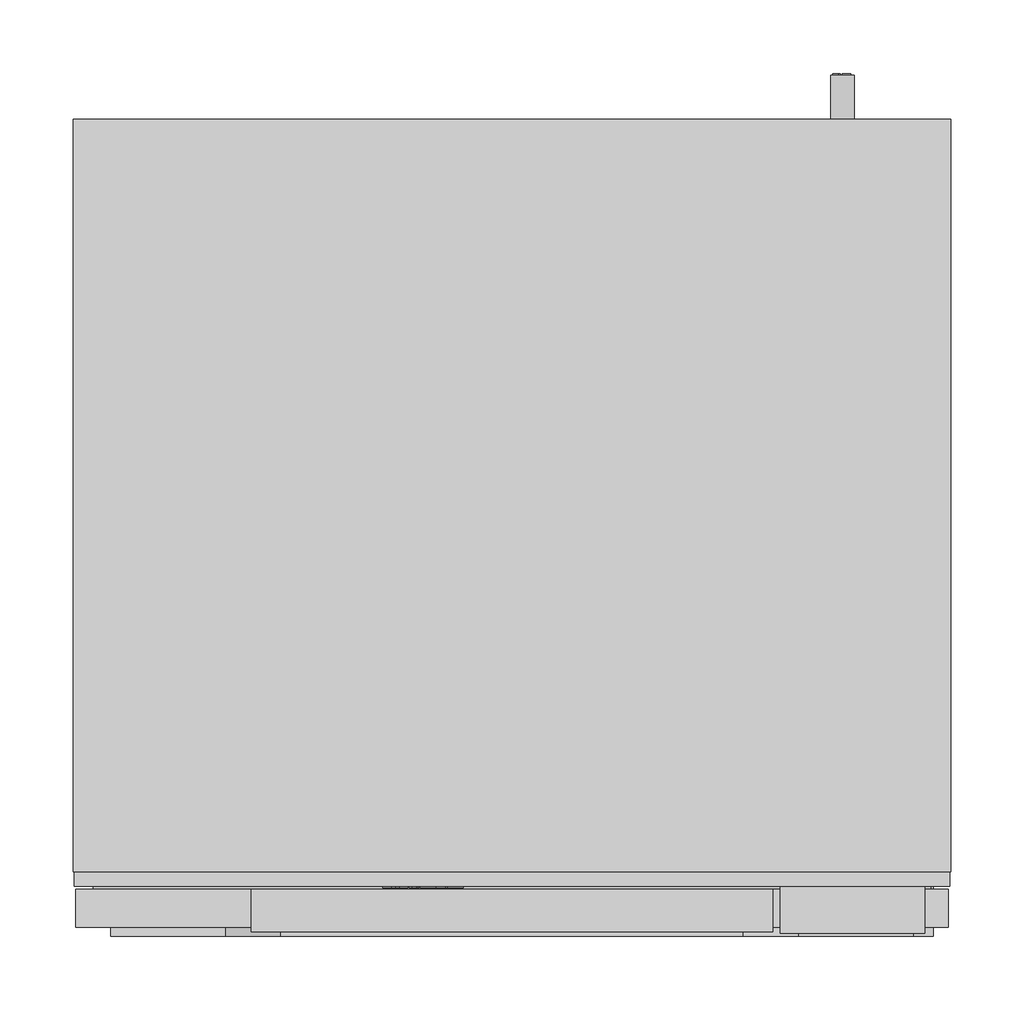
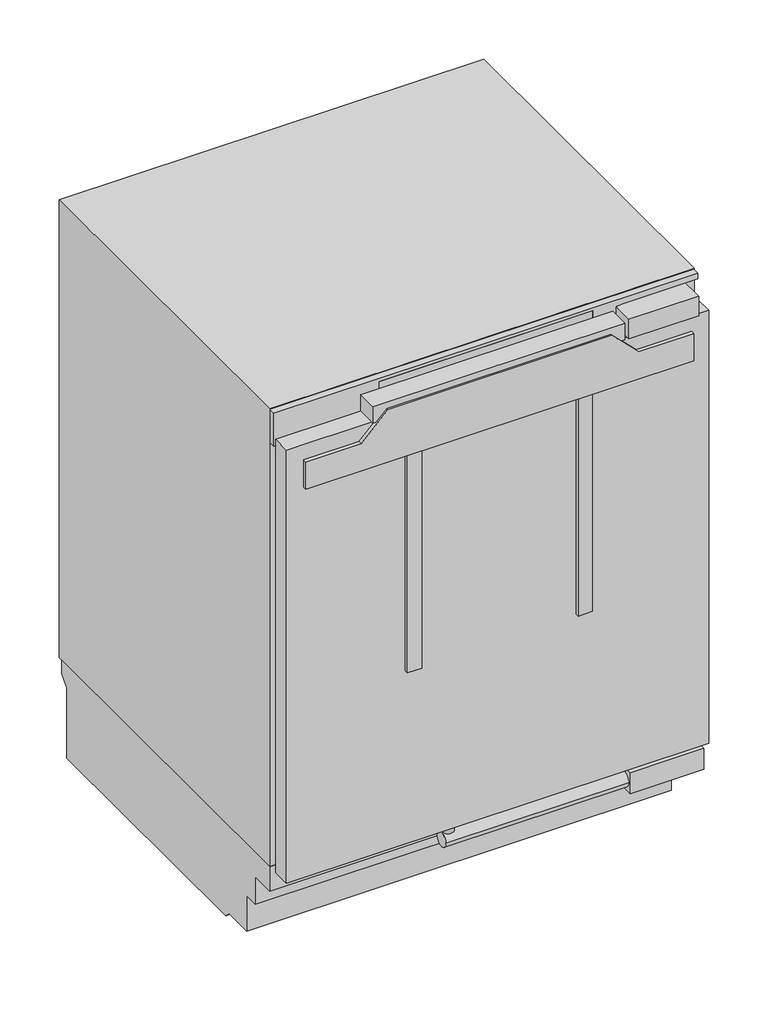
# Not in any storey: 1 proxy.
"""IFC4 building model written with IfcOpenShell, lengths in millimetres."""

import ifcopenshell
import ifcopenshell.guid

model = None  # the IFC model being written
_history = None  # IfcOwnerHistory: only IFC2X3 demands one
_inside = {}  # id of a spatial element -> (the spatial element, [elements in it])
_under = {}  # id of a project, library or spatial element -> (it, [spatial elements below it])
_declared = {}  # id of a project -> (the project, [libraries it declares])
_typed = {}  # id of a type object -> (the type object, [elements of that type])
_made_of = {}  # id of a material, layer set ... -> (it, [elements and type objects made of it])


def new_model(schema):
    """Start an empty IFC model of exactly this schema.

    Asked for "IFC4X3", IfcOpenShell would pick the latest addendum, in which some entities
    have other attributes; the version numbers below select the first issue.
    IFC2X3 requires an IfcOwnerHistory on every rooted entity: one is made here for all.
    """
    global model, _history
    if schema == "IFC4X3":
        model = ifcopenshell.file(schema_version=(4, 3, 0, 0))
    else:
        model = ifcopenshell.file(schema=schema)
    _inside.clear()
    _under.clear()
    _declared.clear()
    _typed.clear()
    _made_of.clear()
    _history = None
    if model.schema == "IFC2X3":
        org = make("IfcOrganization", Name="unknown")
        user = make(
            "IfcPersonAndOrganization",
            ThePerson=make("IfcPerson", FamilyName="unknown"),
            TheOrganization=org,
        )
        app = make(
            "IfcApplication",
            ApplicationDeveloper=org,
            Version="unknown",
            ApplicationFullName="unknown",
            ApplicationIdentifier="unknown",
        )
        _history = make(
            "IfcOwnerHistory",
            OwningUser=user,
            OwningApplication=app,
            ChangeAction="ADDED",
            CreationDate=0,
        )
    return model


def make(cls, **values):
    """One entity of the class cls with the attributes given. An attribute that is None is left unset."""
    return model.create_entity(
        cls, **{name: value for name, value in values.items() if value is not None}
    )


def rooted(cls, **values):
    """An entity with a GlobalId (a new one), such as an element, a storey or a relation."""
    return make(cls, GlobalId=ifcopenshell.guid.new(), OwnerHistory=_history, **values)


def si_unit(unit_type, name, prefix=None):
    """IfcSIUnit, for example si_unit("LENGTHUNIT", "METRE", prefix="MILLI")."""
    return make("IfcSIUnit", UnitType=unit_type, Prefix=prefix, Name=name)


def assignment(units):
    """IfcUnitAssignment: the units of a project."""
    return None if units is None else make("IfcUnitAssignment", Units=units)


def point(xyz):
    """IfcCartesianPoint."""
    return None if xyz is None else make("IfcCartesianPoint", Coordinates=xyz)


def direction(xyz):
    """IfcDirection."""
    return None if xyz is None else make("IfcDirection", DirectionRatios=xyz)


def frame(location, z_axis=None, x_axis=None):
    """IfcAxis2Placement3D, a coordinate frame: its origin and axes. An axis left out is left unset."""
    return make(
        "IfcAxis2Placement3D",
        Location=point(location),
        Axis=direction(z_axis),
        RefDirection=direction(x_axis),
    )


def frame_2d(location, x_axis=None):
    """IfcAxis2Placement2D, a coordinate frame in the plane: its origin and x axis."""
    return make(
        "IfcAxis2Placement2D", Location=point(location), RefDirection=direction(x_axis)
    )


def origin():
    """The frame at (0, 0, 0) with its axes left unset."""
    return frame((0.0, 0.0, 0.0))


def origin_with_axes():
    """The frame at (0, 0, 0) with the z axis (0, 0, 1) and the x axis (1, 0, 0) written out."""
    return frame((0.0, 0.0, 0.0), z_axis=(0.0, 0.0, 1.0), x_axis=(1.0, 0.0, 0.0))


def place(relative_to, where):
    """IfcLocalPlacement: puts the frame where relative to a parent placement (None: the world)."""
    return make(
        "IfcLocalPlacement", PlacementRelTo=relative_to, RelativePlacement=where
    )


def context(
    kind, dimensions, precision=None, world=None, true_north=None, identifier=None
):
    """IfcGeometricRepresentationContext, for example the 3D "Model" context."""
    return make(
        "IfcGeometricRepresentationContext",
        ContextIdentifier=identifier,
        ContextType=kind,
        CoordinateSpaceDimension=dimensions,
        Precision=precision,
        WorldCoordinateSystem=world,
        TrueNorth=true_north,
    )


def project(units=None, contexts=None):
    """IfcProject with its units and contexts."""
    return rooted(
        "IfcProject",
        Name="project",
        RepresentationContexts=contexts,
        UnitsInContext=assignment(units),
    )


def spatial(cls, under=None, at=None, **own):
    """A site, building, storey or space (cls), placed at a placement, below another one or the project."""
    s = rooted(cls, ObjectPlacement=at, **own)
    if under is not None:
        _under.setdefault(under.id(), (under, []))[1].append(s)
    return s


def polyline(points):
    """IfcPolyline through the points."""
    return make("IfcPolyline", Points=[point(p) for p in points])


def circle_curve(where, radius):
    """IfcCircle in the frame where."""
    return make("IfcCircle", Position=where, Radius=radius)


def ellipse_curve(where, semi_axis1, semi_axis2):
    """IfcEllipse in the frame where."""
    return make(
        "IfcEllipse", Position=where, SemiAxis1=semi_axis1, SemiAxis2=semi_axis2
    )


def trimmed(basis, trim1, trim2, sense, master):
    """IfcTrimmedCurve: the piece of a basis curve between two trims."""
    return make(
        "IfcTrimmedCurve",
        BasisCurve=basis,
        Trim1=trim1,
        Trim2=trim2,
        SenseAgreement=sense,
        MasterRepresentation=master,
    )


def segment(curve, same_sense, transition):
    """IfcCompositeCurveSegment."""
    return make(
        "IfcCompositeCurveSegment",
        Transition=transition,
        SameSense=same_sense,
        ParentCurve=curve,
    )


def composite_curve(segments, self_intersect=None):
    """IfcCompositeCurve: segments joined end to end."""
    return make("IfcCompositeCurve", Segments=segments, SelfIntersect=self_intersect)


def outline(outer, holes=None, kind="AREA"):
    """IfcArbitraryClosedProfileDef: a profile drawn as a closed curve; with holes, ...WithVoids."""
    if holes is None:
        return make("IfcArbitraryClosedProfileDef", ProfileType=kind, OuterCurve=outer)
    return make(
        "IfcArbitraryProfileDefWithVoids",
        ProfileType=kind,
        OuterCurve=outer,
        InnerCurves=holes,
    )


def extrude(swept, where, along, depth):
    """IfcExtrudedAreaSolid: the profile swept, set in the frame where, extruded along a direction by depth."""
    return make(
        "IfcExtrudedAreaSolid",
        SweptArea=swept,
        Position=where,
        ExtrudedDirection=direction(along),
        Depth=depth,
    )


def faces_of(points, faces, orient=None, outer=None):
    """IfcFace entities. A face is a list of loops; a loop is a list of indices into points, from 0.

    orient and outer hold one flag for each loop. By default every Orientation is true, the
    first loop of a face is its IfcFaceOuterBound and the others are IfcFaceBound.
    """
    made = []
    for i, loops in enumerate(faces):
        bounds = []
        for j, loop in enumerate(loops):
            is_outer = j == 0 if outer is None else outer[i][j]
            bounds.append(
                make(
                    "IfcFaceOuterBound" if is_outer else "IfcFaceBound",
                    Bound=make("IfcPolyLoop", Polygon=[points[k] for k in loop]),
                    Orientation=True if orient is None else orient[i][j],
                )
            )
        made.append(make("IfcFace", Bounds=bounds))
    return made


def faceted_brep(points, faces, orient=None, outer=None, voids=None):
    """IfcFacetedBrep: a solid bounded by flat faces; with voids (closed shells), ...WithVoids."""
    shared = [point(p) for p in points]
    hull = make("IfcClosedShell", CfsFaces=faces_of(shared, faces, orient, outer))
    if voids is None:
        return make("IfcFacetedBrep", Outer=hull)
    return make(
        "IfcFacetedBrepWithVoids",
        Outer=hull,
        Voids=[
            make(cls, CfsFaces=faces_of(shared, fs, o, b)) for cls, fs, o, b in voids
        ],
    )


def shape(context_of_items, identifier, shape_type, items):
    """IfcShapeRepresentation: the items that make up one representation, for example the "Body"."""
    return make(
        "IfcShapeRepresentation",
        ContextOfItems=context_of_items,
        RepresentationIdentifier=identifier,
        RepresentationType=shape_type,
        Items=items,
    )


def source(mapping_origin, context_of_items, identifier, shape_type, items):
    """IfcRepresentationMap: a shape defined once, which mapped items show again and again."""
    return make(
        "IfcRepresentationMap",
        MappingOrigin=mapping_origin,
        MappedRepresentation=shape(context_of_items, identifier, shape_type, items),
    )


def transform(
    local_origin,
    x_axis=None,
    y_axis=None,
    z_axis=None,
    scale=None,
    scale2=None,
    scale3=None,
    uniform=True,
):
    """IfcCartesianTransformationOperator3D, or its non-uniform kind. x_axis, y_axis, z_axis: its Axis1, 2, 3."""
    if uniform:
        return make(
            "IfcCartesianTransformationOperator3D",
            Axis1=direction(x_axis),
            Axis2=direction(y_axis),
            LocalOrigin=point(local_origin),
            Scale=scale,
            Axis3=direction(z_axis),
        )
    return make(
        "IfcCartesianTransformationOperator3DnonUniform",
        Axis1=direction(x_axis),
        Axis2=direction(y_axis),
        LocalOrigin=point(local_origin),
        Scale=scale,
        Axis3=direction(z_axis),
        Scale2=scale2,
        Scale3=scale3,
    )


def mapped(mapping_source, mapping_target):
    """IfcMappedItem: shows the shape of a source again, moved by a transform."""
    return make(
        "IfcMappedItem", MappingSource=mapping_source, MappingTarget=mapping_target
    )


def made_of(thing, what):
    """Note that an element or type object is made of a material, layer set ...; save() writes the relation."""
    if what is not None:
        _made_of.setdefault(what.id(), (what, []))[1].append(thing)
    return thing


def element(
    cls,
    number,
    at=None,
    inside=None,
    cuts=None,
    type_object=None,
    material=None,
    context=None,
    identifier="Body",
    shape_type=None,
    held_by="IfcProductDefinitionShape",
    body=None,
    shapes=None,
    **own,
):
    """One element of the class cls, such as IfcWall. Its Tag is "e" and its number.

    at: its placement. inside: the storey or other place that contains it. cuts: it is an
    opening in that element (IfcRelVoidsElement). A single representation is given by context,
    identifier, shape_type and body (its items); several are given by shapes. held_by: the class
    of the entity that holds the representations. save() writes the other relations.
    """
    e = rooted(cls, Tag="e%d" % number, ObjectPlacement=at, **own)
    if body is not None:
        shapes = [shape(context, identifier, shape_type, body)]
    if shapes is not None:
        e.Representation = make(held_by, Representations=shapes)
    if inside is not None:
        _inside.setdefault(inside.id(), (inside, []))[1].append(e)
    if cuts is not None:
        rooted(
            "IfcRelVoidsElement", RelatingBuildingElement=cuts, RelatedOpeningElement=e
        )
    if type_object is not None:
        _typed.setdefault(type_object.id(), (type_object, []))[1].append(e)
    return made_of(e, material)


def aggregate(whole, parts):
    """IfcRelAggregates: a whole, such as a stair, and the parts it consists of."""
    return rooted("IfcRelAggregates", RelatingObject=whole, RelatedObjects=parts)


def save(model, path):
    """Write the relations noted so far, then the file.

    IfcRelAggregates (storeys below a building ...), IfcRelContainedInSpatialStructure (elements
    in a storey), IfcRelDefinesByType, IfcRelAssociatesMaterial and IfcRelDeclares: one each for
    every whole, place, type object, material and project.
    """
    for whole, parts in _under.values():
        aggregate(whole, parts)
    for where, things in _inside.values():
        rooted(
            "IfcRelContainedInSpatialStructure",
            RelatedElements=things,
            RelatingStructure=where,
        )
    for kind, things in _typed.values():
        rooted("IfcRelDefinesByType", RelatedObjects=things, RelatingType=kind)
    for what, things in _made_of.values():
        rooted("IfcRelAssociatesMaterial", RelatedObjects=things, RelatingMaterial=what)
    for by, libraries in _declared.values():
        rooted("IfcRelDeclares", RelatingContext=by, RelatedDefinitions=libraries)
    model.write(path)


def plane_surface(at):
    """IfcPlane: the flat surface through the origin of the frame at, square to its z axis."""
    return make("IfcPlane", Position=at)


def cylinder_surface(at, radius):
    """IfcCylindricalSurface: all points at the distance radius from the z axis of the frame at."""
    return make("IfcCylindricalSurface", Position=at, Radius=radius)


def revolved_surface(curve, axis_point, axis_direction):
    """IfcSurfaceOfRevolution: the curve turned about the line through axis_point along axis_direction."""
    return make(
        "IfcSurfaceOfRevolution",
        SweptCurve=make("IfcArbitraryOpenProfileDef", ProfileType="CURVE", Curve=curve),
        AxisPosition=make("IfcAxis1Placement", Location=point(axis_point), Axis=direction(axis_direction)),
    )


def extruded_surface(curve, direction_of_extrusion, depth):
    """IfcSurfaceOfLinearExtrusion: the curve pushed along a direction by depth."""
    return make(
        "IfcSurfaceOfLinearExtrusion",
        SweptCurve=make("IfcArbitraryOpenProfileDef", ProfileType="CURVE", Curve=curve),
        ExtrudedDirection=direction(direction_of_extrusion),
        Depth=depth,
    )


def advanced_brep(points, edges, surfaces, faces):
    """IfcAdvancedBrep: a solid bounded by faces that lie on surfaces and meet in shared edges.

    An edge is (start, end): straight between two places in points (the first is 0);
    or (start, end, curve); or (start, end, curve, False) where it runs against its curve.
    A face is (place in surfaces, loops), or (place, loops, False) where it looks against
    its surface's normal. A loop lists edges by number (the first is 1), with a minus sign
    where the edge is run from its end to its start. The first loop is the outer one.
    """
    corners = [point(p) for p in points]
    vertices = [make("IfcVertexPoint", VertexGeometry=c) for c in corners]
    made = []
    for start, end, *more in edges:
        made.append(
            make(
                "IfcEdgeCurve",
                EdgeStart=vertices[start],
                EdgeEnd=vertices[end],
                EdgeGeometry=more[0] if more else make("IfcPolyline", Points=[corners[start], corners[end]]),
                SameSense=more[1] if len(more) > 1 else True,
            )
        )
    hull = []
    for where, loops, *sense in faces:
        bounds = []
        for j, loop in enumerate(loops):
            ring = [make("IfcOrientedEdge", EdgeElement=made[abs(k) - 1], Orientation=k > 0) for k in loop]
            bounds.append(
                make(
                    "IfcFaceOuterBound" if j == 0 else "IfcFaceBound",
                    Bound=make("IfcEdgeLoop", EdgeList=ring),
                    Orientation=True,
                )
            )
        hull.append(make("IfcAdvancedFace", Bounds=bounds, FaceSurface=surfaces[where], SameSense=sense[0] if sense else True))
    return make("IfcAdvancedBrep", Outer=make("IfcClosedShell", CfsFaces=hull))


def specialty_equipment_8ff5ed72(model_context):
    return source(origin(), model_context, "Body", "SolidModel", [
        extrude(outline(polyline([(795.9349293, -88.017), (795.9349293, -86.928), (789.9139293, -86.928), (789.9139293, -88.017), (788.4019293, -88.017), (788.4019293, -84.057), (789.9139293, -84.057), (789.9139293, -85.137), (793.7360541, -85.137), (788.4019293, -81.114), (793.8421516, -77.073), (789.9139293, -77.073), (789.9139293, -78.18), (788.4019293, -78.18), (788.4019293, -70.998), (789.9139293, -70.998), (789.9139293, -72.141), (795.9349293, -72.141), (795.9349293, -70.998), (797.4019293, -70.998), (797.4019293, -76.479), (794.0269293, -79.107), (797.4019293, -81.744), (797.4019293, -88.017), (795.9349293, -88.017)])), frame((0.0, 33.1, 0.0), z_axis=(0.0, 1.0, 0.0), x_axis=(0.0, 0.0, 1.0)), (0.0, 0.0, 1.0), 1.0),
        extrude(outline(polyline([(795.9349293, -51.495), (795.9349293, -50.415), (789.9139293, -50.415), (789.9139293, -51.495), (788.4019293, -51.495), (788.4019293, -44.196), (789.9139293, -44.196), (789.9139293, -45.303), (797.4019293, -45.303), (797.4019293, -51.495), (795.9349293, -51.495)])), frame((0.0, 33.1, 0.0), z_axis=(0.0, 1.0, 0.0), x_axis=(0.0, 0.0, 1.0)), (0.0, 0.0, 1.0), 1.0),
        extrude(outline(polyline([(796.8709293, -67.857), (795.4129293, -67.173), (796.8349293, -64.122), (798.2929293, -64.797), (796.8709293, -67.857)])), frame((0.0, 33.1, 0.0), z_axis=(0.0, 1.0, 0.0), x_axis=(0.0, 0.0, 1.0)), (0.0, 0.0, 1.0), 1.0),
        extrude(outline(polyline([(795.2149293, -70.08), (793.6039293, -70.08), (793.6039293, -69.009), (789.9139293, -69.009), (789.9139293, -70.08), (788.4019293, -70.08), (788.4019293, -62.979), (789.9139293, -62.979), (789.9139293, -64.023), (795.2149293, -64.023), (795.2149293, -70.08)])), frame((0.0, 33.1, 0.0), z_axis=(0.0, 1.0, 0.0), x_axis=(0.0, 0.0, 1.0)), (0.0, 0.0, 1.0), 1.0),
        advanced_brep(
        [(-58.02, 33.1, 790.5349293), (-58.02, 33.1, 791.4439293), (-51.999, 33.1, 791.4439293), (-62.475, 33.1, 791.4439293), (-60.0, 33.1, 788.4019293), (-52.152, 33.1, 790.5349293), (-54.87, 33.1, 790.5349293), (-57.012, 33.1, 789.5269293), (-58.02, 33.1, 792.5959293), (-58.02, 33.1, 793.5769293), (-56.481, 33.1, 793.5769293), (-56.481, 33.1, 792.5959293), (-58.02, 34.1, 790.5349293), (-57.012, 34.1, 789.5269293), (-54.87, 34.1, 790.5349293), (-52.152, 34.1, 790.5349293), (-60.0, 34.1, 788.4019293), (-62.475, 34.1, 791.4439293), (-51.999, 34.1, 791.4439293), (-58.02, 34.1, 791.4439293), (-58.02, 34.1, 792.5959293), (-56.481, 34.1, 792.5959293), (-56.481, 34.1, 793.5769293), (-58.02, 34.1, 793.5769293)],
        [
            (0, 1),
            (1, 2),
            (2, 3, ellipse_curve(frame((-57.237, 33.1, 791.4439293), z_axis=(0.0, -1.0, 0.0), x_axis=(-1.0, 0.0, 0.0)), 5.238, 4.329)),
            (3, 4, circle_curve(frame((-58.9919509, 33.1, 791.7499293), z_axis=(0.0, -1.0, 0.0), x_axis=(0.0, 0.0, -1.0)), 3.4964649)),
            (4, 5, circle_curve(frame((-57.3418572, 33.1, 794.1259293), z_axis=(0.0, -1.0, 0.0), x_axis=(0.0, 0.0, -1.0)), 6.3110933)),
            (5, 6),
            (6, 7, circle_curve(frame((-56.5720588, 33.1, 791.3719293), z_axis=(0.0, 1.0, 0.0), x_axis=(0.0, 0.0, -1.0)), 1.896727)),
            (7, 0, circle_curve(frame((-57.012, 33.1, 790.5349293), z_axis=(0.0, 1.0, 0.0), x_axis=(0.0, 0.0, -1.0)), 1.008)),
            (8, 9),
            (9, 10, circle_curve(frame((-57.2505, 33.1, 793.5769293), z_axis=(0.0, 1.0, 0.0), x_axis=(0.0, 0.0, -1.0)), 0.7695)),
            (10, 11),
            (11, 8),
            (12, 13, circle_curve(frame((-57.012, 34.1, 790.5349293), z_axis=(0.0, -1.0, 0.0), x_axis=(0.0, 0.0, -1.0)), 1.008)),
            (13, 14, circle_curve(frame((-56.5720588, 34.1, 791.3719293), z_axis=(0.0, -1.0, 0.0), x_axis=(0.0, 0.0, -1.0)), 1.896727)),
            (14, 15),
            (15, 16, circle_curve(frame((-57.3418572, 34.1, 794.1259293), z_axis=(0.0, 1.0, 0.0), x_axis=(0.0, 0.0, -1.0)), 6.3110933)),
            (16, 17, circle_curve(frame((-58.9919509, 34.1, 791.7499293), z_axis=(0.0, 1.0, 0.0), x_axis=(0.0, 0.0, -1.0)), 3.4964649)),
            (17, 18, ellipse_curve(frame((-57.237, 34.1, 791.4439293), z_axis=(0.0, 1.0, 0.0), x_axis=(-1.0, 0.0, 0.0)), 5.238, 4.329)),
            (18, 19),
            (19, 12),
            (20, 21),
            (21, 22),
            (22, 23, circle_curve(frame((-57.2505, 34.1, 793.5769293), z_axis=(0.0, -1.0, 0.0), x_axis=(0.0, 0.0, -1.0)), 0.7695)),
            (23, 20),
            (0, 12),
            (19, 1),
            (18, 2),
            (5, 15),
            (14, 6),
            (17, 3),
            (13, 7),
            (16, 4),
            (8, 20),
            (23, 9),
            (22, 10),
            (21, 11),
        ],
        [
            plane_surface(frame((-58.02, 33.1, 791.4439293), z_axis=(0.0, -1.0, 0.0), x_axis=(0.0, 0.0, 1.0))),
            plane_surface(frame((-58.02, 34.1, 791.4439293), z_axis=(0.0, 1.0, 0.0), x_axis=(0.0, 0.0, -1.0))),
            plane_surface(frame((-58.02, 33.1, 790.5349293), z_axis=(1.0, 0.0, 0.0), x_axis=(0.0, 1.0, 0.0))),
            plane_surface(frame((-58.02, 33.1, 791.4439293), z_axis=(0.0, 0.0, -1.0), x_axis=(0.0, 1.0, 0.0))),
            plane_surface(frame((-52.152, 33.1, 790.5349293), z_axis=(0.0, 0.0, 1.0), x_axis=(0.0, 1.0, 0.0))),
            extruded_surface(trimmed(ellipse_curve(frame((-57.237, 35.1, 791.4439293), z_axis=(0.0, -1.0, 0.0), x_axis=(-1.0, 0.0, 0.0)), 5.238, 4.329), [point((-51.999, 35.1, 791.4439293))], [point((-62.475, 35.1, 791.4439293))], True, "CARTESIAN"), (0.0, -1.0, 0.0), 1.0),
            revolved_surface(polyline([(-56.5720588, 34.1, 789.4752023), (-56.5720588, 33.1, 789.4752023)]), (-56.5720588, 34.1, 791.3719293), (0.0, 1.0, 0.0)),
            revolved_surface(polyline([(-57.012, 34.1, 789.5269293), (-57.012, 33.1, 789.5269293)]), (-57.012, 34.1, 790.5349293), (0.0, 1.0, 0.0)),
            cylinder_surface(frame((-58.9919509, 34.1, 791.7499293), z_axis=(0.0, -1.0, 0.0), x_axis=(0.0, 0.0, -1.0)), 3.4964649),
            cylinder_surface(frame((-57.3418572, 34.1, 794.1259293), z_axis=(0.0, -1.0, 0.0), x_axis=(0.0, 0.0, -1.0)), 6.3110933),
            plane_surface(frame((-58.02, 33.1, 792.5959293), z_axis=(1.0, 0.0, 0.0), x_axis=(0.0, 1.0, 0.0))),
            revolved_surface(polyline([(-57.2505, 34.1, 792.8074293), (-57.2505, 33.1, 792.8074293)]), (-57.2505, 34.1, 793.5769293), (0.0, 1.0, 0.0)),
            plane_surface(frame((-56.481, 33.1, 793.5769293), z_axis=(-1.0, 0.0, 0.0), x_axis=(0.0, 1.0, 0.0))),
            plane_surface(frame((-56.481, 33.1, 792.5959293), z_axis=(0.0, 0.0, 1.0), x_axis=(0.0, 1.0, 0.0))),
        ],
        [
            (0, [[1, 2, 3, 4, 5, 6, 7, 8], [9, 10, 11, 12]]),
            (1, [[13, 14, 15, 16, 17, 18, 19, 20], [21, 22, 23, 24]]),
            (2, [[-1, 25, -20, 26]]),
            (3, [[-2, -26, -19, 27]]),
            (4, [[-6, 28, -15, 29]]),
            (5, [[-3, -27, -18, 30]]),
            (6, [[-7, -29, -14, 31]]),
            (7, [[-8, -31, -13, -25]]),
            (8, [[-4, -30, -17, 32]]),
            (9, [[-5, -32, -16, -28]]),
            (10, [[-9, 33, -24, 34]]),
            (11, [[-10, -34, -23, 35]]),
            (12, [[-11, -35, -22, 36]]),
            (13, [[-12, -36, -21, -33]]),
        ],
    ),
        advanced_brep(
        [(-39.237, 33.1, 790.5349293), (-39.237, 33.1, 791.4439293), (-33.216, 33.1, 791.4439293), (-43.692, 33.1, 791.4439293), (-41.217, 33.1, 788.4019293), (-33.369, 33.1, 790.5349293), (-36.087, 33.1, 790.5349293), (-38.229, 33.1, 789.5269293), (-39.237, 33.1, 792.5959293), (-39.237, 33.1, 793.5769293), (-37.698, 33.1, 793.5769293), (-37.698, 33.1, 792.5959293), (-39.237, 34.1, 790.5349293), (-38.229, 34.1, 789.5269293), (-36.087, 34.1, 790.5349293), (-33.369, 34.1, 790.5349293), (-41.217, 34.1, 788.4019293), (-43.692, 34.1, 791.4439293), (-33.216, 34.1, 791.4439293), (-39.237, 34.1, 791.4439293), (-39.237, 34.1, 792.5959293), (-37.698, 34.1, 792.5959293), (-37.698, 34.1, 793.5769293), (-39.237, 34.1, 793.5769293)],
        [
            (0, 1),
            (1, 2),
            (2, 3, ellipse_curve(frame((-38.454, 33.1, 791.4439293), z_axis=(0.0, -1.0, 0.0), x_axis=(-1.0, 0.0, 0.0)), 5.238, 4.329)),
            (3, 4, circle_curve(frame((-40.2089509, 33.1, 791.7499293), z_axis=(0.0, -1.0, 0.0), x_axis=(0.0, 0.0, -1.0)), 3.4964649)),
            (4, 5, circle_curve(frame((-38.5588572, 33.1, 794.1259293), z_axis=(0.0, -1.0, 0.0), x_axis=(0.0, 0.0, -1.0)), 6.3110933)),
            (5, 6),
            (6, 7, circle_curve(frame((-37.7890588, 33.1, 791.3719293), z_axis=(0.0, 1.0, 0.0), x_axis=(0.0, 0.0, -1.0)), 1.896727)),
            (7, 0, circle_curve(frame((-38.229, 33.1, 790.5349293), z_axis=(0.0, 1.0, 0.0), x_axis=(0.0, 0.0, -1.0)), 1.008)),
            (8, 9),
            (9, 10, circle_curve(frame((-38.4675, 33.1, 793.5769293), z_axis=(0.0, 1.0, 0.0), x_axis=(0.0, 0.0, -1.0)), 0.7695)),
            (10, 11),
            (11, 8),
            (12, 13, circle_curve(frame((-38.229, 34.1, 790.5349293), z_axis=(0.0, -1.0, 0.0), x_axis=(0.0, 0.0, -1.0)), 1.008)),
            (13, 14, circle_curve(frame((-37.7890588, 34.1, 791.3719293), z_axis=(0.0, -1.0, 0.0), x_axis=(0.0, 0.0, -1.0)), 1.896727)),
            (14, 15),
            (15, 16, circle_curve(frame((-38.5588572, 34.1, 794.1259293), z_axis=(0.0, 1.0, 0.0), x_axis=(0.0, 0.0, -1.0)), 6.3110933)),
            (16, 17, circle_curve(frame((-40.2089509, 34.1, 791.7499293), z_axis=(0.0, 1.0, 0.0), x_axis=(0.0, 0.0, -1.0)), 3.4964649)),
            (17, 18, ellipse_curve(frame((-38.454, 34.1, 791.4439293), z_axis=(0.0, 1.0, 0.0), x_axis=(-1.0, 0.0, 0.0)), 5.238, 4.329)),
            (18, 19),
            (19, 12),
            (20, 21),
            (21, 22),
            (22, 23, circle_curve(frame((-38.4675, 34.1, 793.5769293), z_axis=(0.0, -1.0, 0.0), x_axis=(0.0, 0.0, -1.0)), 0.7695)),
            (23, 20),
            (0, 12),
            (19, 1),
            (18, 2),
            (5, 15),
            (14, 6),
            (17, 3),
            (13, 7),
            (16, 4),
            (8, 20),
            (23, 9),
            (22, 10),
            (21, 11),
        ],
        [
            plane_surface(frame((-39.237, 33.1, 791.4439293), z_axis=(0.0, -1.0, 0.0), x_axis=(0.0, 0.0, 1.0))),
            plane_surface(frame((-39.237, 34.1, 791.4439293), z_axis=(0.0, 1.0, 0.0), x_axis=(0.0, 0.0, -1.0))),
            plane_surface(frame((-39.237, 33.1, 790.5349293), z_axis=(1.0, 0.0, 0.0), x_axis=(0.0, 1.0, 0.0))),
            plane_surface(frame((-39.237, 33.1, 791.4439293), z_axis=(0.0, 0.0, -1.0), x_axis=(0.0, 1.0, 0.0))),
            plane_surface(frame((-33.369, 33.1, 790.5349293), z_axis=(0.0, 0.0, 1.0), x_axis=(0.0, 1.0, 0.0))),
            extruded_surface(trimmed(ellipse_curve(frame((-38.454, 35.1, 791.4439293), z_axis=(0.0, -1.0, 0.0), x_axis=(-1.0, 0.0, 0.0)), 5.238, 4.329), [point((-33.216, 35.1, 791.4439293))], [point((-43.692, 35.1, 791.4439293))], True, "CARTESIAN"), (0.0, -1.0, 0.0), 1.0),
            revolved_surface(polyline([(-37.7890588, 34.1, 789.4752023), (-37.7890588, 33.1, 789.4752023)]), (-37.7890588, 34.1, 791.3719293), (0.0, 1.0, 0.0)),
            revolved_surface(polyline([(-38.229, 34.1, 789.5269293), (-38.229, 33.1, 789.5269293)]), (-38.229, 34.1, 790.5349293), (0.0, 1.0, 0.0)),
            cylinder_surface(frame((-40.2089509, 34.1, 791.7499293), z_axis=(0.0, -1.0, 0.0), x_axis=(0.0, 0.0, -1.0)), 3.4964649),
            cylinder_surface(frame((-38.5588572, 34.1, 794.1259293), z_axis=(0.0, -1.0, 0.0), x_axis=(0.0, 0.0, -1.0)), 6.3110933),
            plane_surface(frame((-39.237, 33.1, 792.5959293), z_axis=(1.0, 0.0, 0.0), x_axis=(0.0, 1.0, 0.0))),
            revolved_surface(polyline([(-38.4675, 34.1, 792.8074293), (-38.4675, 33.1, 792.8074293)]), (-38.4675, 34.1, 793.5769293), (0.0, 1.0, 0.0)),
            plane_surface(frame((-37.698, 33.1, 793.5769293), z_axis=(-1.0, 0.0, 0.0), x_axis=(0.0, 1.0, 0.0))),
            plane_surface(frame((-37.698, 33.1, 792.5959293), z_axis=(0.0, 0.0, 1.0), x_axis=(0.0, 1.0, 0.0))),
        ],
        [
            (0, [[1, 2, 3, 4, 5, 6, 7, 8], [9, 10, 11, 12]]),
            (1, [[13, 14, 15, 16, 17, 18, 19, 20], [21, 22, 23, 24]]),
            (2, [[-1, 25, -20, 26]]),
            (3, [[-2, -26, -19, 27]]),
            (4, [[-6, 28, -15, 29]]),
            (5, [[-3, -27, -18, 30]]),
            (6, [[-7, -29, -14, 31]]),
            (7, [[-8, -31, -13, -25]]),
            (8, [[-4, -30, -17, 32]]),
            (9, [[-5, -32, -16, -28]]),
            (10, [[-9, 33, -24, 34]]),
            (11, [[-10, -34, -23, 35]]),
            (12, [[-11, -35, -22, 36]]),
            (13, [[-12, -36, -21, -33]]),
        ],
    ),
        extrude(outline(polyline([(150.0048218, 34.0937347), (-150.0048218, 34.0937347), (-150.0048218, 44.0), (150.0048218, 44.0), (150.0048218, 34.0937347)])), frame((0.0, 0.0, 773.2139282), z_axis=(0.0, 0.0, 1.0), x_axis=(1.0, 0.0, 0.0)), (0.0, 0.0, 1.0), 39.9850464),
        extrude(outline(polyline([(817.6989746, 298.0), (817.6989746, -298.0), (768.7051238, -298.0), (768.7051238, 190.5), (809.0, 190.5), (809.0, 298.0), (817.6989746, 298.0)]), holes=[polyline([(813.1989746, -150.0048218), (813.1989746, 150.0048218), (773.2139282, 150.0048218), (773.2139282, -150.0048218), (813.1989746, -150.0048218)])]), frame((0.0, 34.0937347, 0.0), z_axis=(0.0, 1.0, 0.0), x_axis=(0.0, 0.0, 1.0)), (0.0, 0.0, 1.0), 9.9062653),
        faceted_brep([(-298.5, 550.1, 137.8999939), (-298.5, 550.1, 117.6051112), (-298.5, 537.6, 105.1051112), (-298.5, 537.6, 0.0), (-298.5, 150.9682763, 0.0), (-298.5, 142.6506717, 8.3176046), (-298.5, 100.0, 8.3176046), (-298.5, 100.0, 60.7725754), (-298.5, 79.0216446, 60.7725754), (-298.5, 79.0216446, 101.8184894), (-298.5, 44.0, 101.8184894), (-298.5, 44.0, 137.8999939), (298.5, 550.1, 137.8999939), (298.5, 44.0, 137.8999939), (298.5, 44.0, 101.8184894), (298.5, 79.0216446, 101.8184894), (298.5, 79.0216446, 60.7725754), (298.5, 100.0, 60.7725754), (298.5, 100.0, 8.3176046), (298.5, 142.6506717, 8.3176046), (298.5, 150.9682763, 0.0), (298.5, 537.6, 0.0), (298.5, 537.6, 105.1051112), (298.5, 550.1, 117.6051112), (296.7000122, 463.8596389, 0.0), (256.5957336, 463.8596389, 0.0), (256.5957336, 399.1975098, 0.0), (296.7000122, 399.1975098, 0.0), (-296.7000122, 463.8596389, 0.0), (-296.7000122, 399.1975098, 0.0), (-256.5957336, 399.1975098, 0.0), (-256.5957336, 463.8596389, 0.0), (296.7000122, 463.8596389, 8.7371401), (296.7000122, 399.1975098, 8.7371401), (256.5957336, 399.1975098, 8.7371401), (256.5957336, 463.8596389, 8.7371401), (-296.7000122, 463.8596389, 8.7371401), (-256.5957336, 463.8596389, 8.7371401), (-256.5957336, 399.1975098, 8.7371401), (-296.7000122, 399.1975098, 8.7371401)], [[[0, 1, 2, 3, 4, 5, 6, 7, 8, 9, 10, 11]], [[12, 13, 14, 15, 16, 17, 18, 19, 20, 21, 22, 23]], [[0, 11, 13, 12]], [[11, 10, 14, 13]], [[10, 9, 15, 14]], [[9, 8, 16, 15]], [[8, 7, 17, 16]], [[7, 6, 18, 17]], [[6, 5, 19, 18]], [[5, 4, 20, 19]], [[4, 3, 21, 20], [24, 25, 26, 27], [28, 29, 30, 31]], [[3, 2, 22, 21]], [[2, 1, 23, 22]], [[1, 0, 12, 23]], [[32, 33, 34, 35]], [[36, 37, 38, 39]], [[32, 35, 25, 24]], [[35, 34, 26, 25]], [[34, 33, 27, 26]], [[33, 32, 24, 27]], [[36, 39, 29, 28]], [[39, 38, 30, 29]], [[38, 37, 31, 30]], [[37, 36, 28, 31]]]),
        faceted_brep([(298.5, 44.0, 819.0), (298.5, 44.0, 137.8999939), (298.5, 556.2, 137.8999939), (298.5, 556.2, 819.0), (-298.5, 44.0, 819.0), (-298.5, 556.2, 819.0), (-298.5, 556.2, 137.8999939), (-298.5, 44.0, 137.8999939), (263.0, 44.0, 719.0), (263.0, 44.0, 150.0), (-263.0, 44.0, 150.0), (-263.0, 44.0, 719.0), (263.0, 510.8638012, 150.0), (263.0, 510.8638012, 719.0), (-263.0, 510.8638012, 719.0), (-263.0, 510.8638012, 150.0)], [[[0, 1, 2, 3]], [[4, 5, 6, 7]], [[1, 0, 4, 7], [8, 9, 10, 11]], [[2, 1, 7, 6]], [[3, 2, 6, 5]], [[0, 3, 5, 4]], [[12, 13, 14, 15]], [[13, 12, 9, 8]], [[14, 13, 8, 11]], [[15, 14, 11, 10]], [[12, 15, 10, 9]]]),
        extrude(outline(polyline([(263.0, 510.8638012), (263.0, 339.3), (-263.0, 339.3), (-263.0, 510.8638012), (263.0, 510.8638012)])), frame((0.0, 0.0, 150.0), z_axis=(0.0, 0.0, 1.0), x_axis=(1.0, 0.0, 0.0)), (0.0, 0.0, 1.0), 71.8999939),
        extrude(outline(composite_curve([segment(trimmed(circle_curve(frame_2d((-270.8532135, 135.87603)), 15.7049948), [point((-286.5582083, 135.87603))], [point((-255.1482187, 135.87603))], False, "CARTESIAN"), True, "CONTINUOUS"), segment(trimmed(circle_curve(frame_2d((-270.8532135, 135.87603)), 15.7049948), [point((-255.1482187, 135.87603))], [point((-286.5582083, 135.87603))], False, "CARTESIAN"), True, "CONTINUOUS")], self_intersect=False)), origin_with_axes(), (0.0, 0.0, 1.0), 8.3176046),
        extrude(outline(composite_curve([segment(trimmed(circle_curve(frame_2d((270.8532135, 135.87603)), 15.7049948), [point((286.5582083, 135.87603))], [point((255.1482187, 135.87603))], False, "CARTESIAN"), True, "CONTINUOUS"), segment(trimmed(circle_curve(frame_2d((270.8532135, 135.87603)), 15.7049948), [point((255.1482187, 135.87603))], [point((286.5582083, 135.87603))], False, "CARTESIAN"), True, "CONTINUOUS")], self_intersect=False)), origin_with_axes(), (0.0, 0.0, 1.0), 8.3176046),
        extrude(outline(composite_curve([segment(trimmed(circle_curve(frame_2d((-275.822369, 437.7385329)), 16.0), [point((-291.822369, 437.7385329))], [point((-259.822369, 437.7385329))], False, "CARTESIAN"), True, "CONTINUOUS"), segment(trimmed(circle_curve(frame_2d((-275.822369, 437.7385329)), 16.0), [point((-259.822369, 437.7385329))], [point((-291.822369, 437.7385329))], False, "CARTESIAN"), True, "CONTINUOUS")], self_intersect=False)), origin_with_axes(), (0.0, 0.0, 1.0), 8.3176046),
        extrude(outline(composite_curve([segment(trimmed(circle_curve(frame_2d((275.822369, 437.7385329)), 16.0), [point((259.822369, 437.7385329))], [point((291.822369, 437.7385329))], False, "CARTESIAN"), True, "CONTINUOUS"), segment(trimmed(circle_curve(frame_2d((275.822369, 437.7385329)), 16.0), [point((291.822369, 437.7385329))], [point((259.822369, 437.7385329))], False, "CARTESIAN"), True, "CONTINUOUS")], self_intersect=False)), origin_with_axes(), (0.0, 0.0, 1.0), 8.3176046),
        extrude(outline(composite_curve([segment(trimmed(circle_curve(frame_2d((144.2460785, 224.8152695)), 8.0), [point((144.2460785, 216.8152695))], [point((144.2460785, 232.8152695))], False, "CARTESIAN"), True, "CONTINUOUS"), segment(trimmed(circle_curve(frame_2d((144.2460785, 224.8152695)), 8.0), [point((144.2460785, 232.8152695))], [point((144.2460785, 216.8152695))], False, "CARTESIAN"), True, "CONTINUOUS")], self_intersect=False)), frame((0.0, 556.2, 0.0), z_axis=(0.0, 1.0, 0.0), x_axis=(0.0, 0.0, 1.0)), (0.0, 0.0, 1.0), 30.0),
        extrude(outline(polyline([(140.2460785, 230.7170777), (148.2825833, 230.7170777), (148.2825833, 224.9408399), (147.2780202, 224.9408399), (147.2780202, 229.7125146), (144.8921828, 229.7125146), (144.8921828, 225.1919806), (143.8876197, 225.1919806), (143.8876197, 229.7125146), (141.2506416, 229.7125146), (141.2506416, 224.8152695), (140.2460785, 224.8152695), (140.2460785, 230.7170777)])), frame((0.0, 586.2, 0.0), z_axis=(0.0, 1.0, 0.0), x_axis=(0.0, 0.0, 1.0)), (0.0, 0.0, 1.0), 1.0),
        extrude(outline(polyline([(140.2460785, 223.3084248), (148.2825833, 223.3084248), (148.2825833, 222.3038617), (141.2506416, 222.3038617), (141.2506416, 218.2856093), (140.2460785, 218.2856093), (140.2460785, 223.3084248)])), frame((0.0, 586.2, 0.0), z_axis=(0.0, 1.0, 0.0), x_axis=(0.0, 0.0, 1.0)), (0.0, 0.0, 1.0), 1.0),
        extrude(outline(polyline([(280.7999573, 2.0229698), (182.5283813, 2.0229698), (182.5283813, 44.0), (280.7999573, 44.0), (280.7999573, 2.0229698)])), frame((0.0, 0.0, 780.0), z_axis=(0.0, 0.0, 1.0), x_axis=(1.0, 0.0, 0.0)), (0.0, 0.0, 1.0), 28.7067261),
        extrude(outline(polyline([(297.0, 6.0), (-297.0, 6.0), (-297.0, 32.0), (297.0, 32.0), (297.0, 6.0)])), frame((0.0, 0.0, 136.0), z_axis=(0.0, 0.0, 1.0), x_axis=(1.0, 0.0, 0.0)), (0.0, 0.0, 1.0), 644.0),
        extrude(outline(polyline([(285.0, 44.0), (285.0, 32.0), (-285.0, 32.0), (-285.0, 44.0), (285.0, 44.0)])), frame((0.0, 0.0, 148.5030441), z_axis=(0.0, 0.0, 1.0), x_axis=(1.0, 0.0, 0.0)), (0.0, 0.0, 1.0), 615.9969559),
        extrude(outline(polyline([(804.6210938, 177.3252429), (804.6210938, -177.3251393), (780.0, -177.3252429), (780.0, 177.3252429), (804.6210938, 177.3252429)])), frame((0.0, 3.0, 0.0), z_axis=(0.0, 1.0, 0.0), x_axis=(0.0, 0.0, 1.0)), (0.0, 0.0, 1.0), 29.0),
        extrude(outline(composite_curve([segment(trimmed(circle_curve(frame_2d((14.2130013, 118.3500061)), 10.647874), [point((3.5651273, 118.3500061))], [point((24.8608752, 118.3500061))], False, "CARTESIAN"), True, "CONTINUOUS"), segment(trimmed(circle_curve(frame_2d((14.2130013, 118.3500061)), 10.647874), [point((24.8608752, 118.3500061))], [point((3.5651273, 118.3500061))], False, "CARTESIAN"), True, "CONTINUOUS")], self_intersect=False)), frame((-73.8137398, 0.0, 0.0), z_axis=(1.0, 0.0, 0.0), x_axis=(0.0, 1.0, 0.0)), (0.0, 0.0, 1.0), 257.1515813),
        extrude(outline(composite_curve([segment(trimmed(circle_curve(frame_2d((-65.2000504, 14.2130013)), 8.0), [point((-73.2000504, 14.2130013))], [point((-57.2000504, 14.2130013))], False, "CARTESIAN"), True, "CONTINUOUS"), segment(trimmed(circle_curve(frame_2d((-65.2000504, 14.2130013)), 8.0), [point((-57.2000504, 14.2130013))], [point((-73.2000504, 14.2130013))], False, "CARTESIAN"), True, "CONTINUOUS")], self_intersect=False)), frame((0.0, 0.0, 128.9978801), z_axis=(0.0, 0.0, 1.0), x_axis=(1.0, 0.0, 0.0)), (0.0, 0.0, 1.0), 7.0021199),
        extrude(outline(polyline([(286.7815857, 0.0), (183.3378415, 0.0), (183.3378415, 44.0), (286.7815857, 44.0), (286.7815857, 0.0)])), frame((0.0, 0.0, 104.8), z_axis=(0.0, 0.0, 1.0), x_axis=(1.0, 0.0, 0.0)), (0.0, 0.0, 1.0), 31.2),
        extrude(outline(polyline([(757.315066, -195.1876874), (757.315066, -272.9755319), (716.8499888, -272.9755319), (716.8499888, 272.9755319), (757.315066, 272.9755319), (757.315066, 195.1876874), (794.938205, 157.5645484), (794.938205, -157.5645484), (757.315066, -195.1876874)])), frame((0.0, 0.0, 0.0), z_axis=(0.0, 1.0, 0.0), x_axis=(0.0, 0.0, 1.0)), (0.0, 0.0, 1.0), 6.0),
        extrude(outline(polyline([(-110.0, 0.0), (-130.0, 0.0), (-130.0, 6.0), (-110.0, 6.0), (-110.0, 0.0)])), frame((0.0, 0.0, 394.1054382), z_axis=(0.0, 0.0, 1.0), x_axis=(1.0, 0.0, 0.0)), (0.0, 0.0, 1.0), 322.7445505),
        extrude(outline(polyline([(130.0, 0.0), (110.0, 0.0), (110.0, 6.0), (130.0, 6.0), (130.0, 0.0)])), frame((0.0, 0.0, 394.1054382), z_axis=(0.0, 0.0, 1.0), x_axis=(1.0, 0.0, 0.0)), (0.0, 0.0, 1.0), 322.7445505),
    ])


model = new_model("IFC4")

# Units and contexts
model_context = context("Model", 3, world=origin())
ifc_project = project(units=[si_unit("LENGTHUNIT", "METRE", prefix="MILLI")], contexts=[model_context])

# Site, building
site = spatial("IfcSite", under=ifc_project)
building = spatial("IfcBuilding", under=site)

# Proxy
placement = place(None, origin())
specialty_equipment_shape = specialty_equipment_8ff5ed72(model_context)
element("IfcBuildingElementProxy", 1, Name="12690490_CH_FNUS7040D : 37704010_CH_12690490_FNUS7040D", ObjectType="12690490_CH_FNUS7040D : 37704010_CH_12690490_FNUS7040D", at=placement, inside=building, context=model_context, shape_type="MappedRepresentation", body=[
    mapped(specialty_equipment_shape, transform((0.0, 0.0, 0.0), x_axis=(1.0, 0.0, 0.0), y_axis=(0.0, 1.0, 0.0), z_axis=(0.0, 0.0, 1.0))),
])

save(model, "model.ifc")
